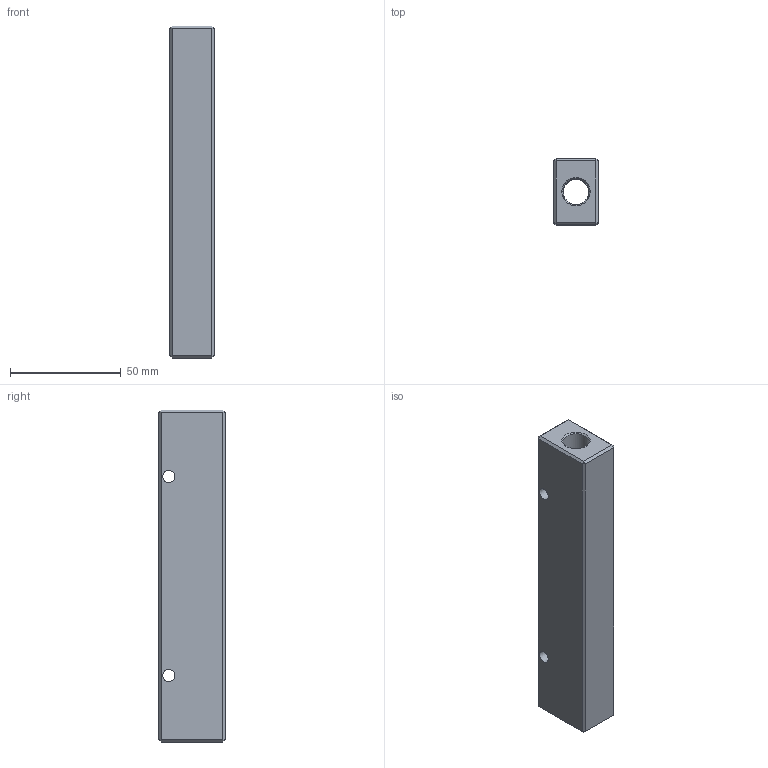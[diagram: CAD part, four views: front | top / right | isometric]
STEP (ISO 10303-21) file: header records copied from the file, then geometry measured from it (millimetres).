
FILE_DESCRIPTION(/* description */ (''),/* implementation_level */ '2;1');
FILE_NAME(/* name */ 'BXH89 2B2 10B1.stp',/* time_stamp */ '2024-11-15T00:47:09+01:00',/* author */ ('freju'),/* organization */ (''),/* preprocessor_version */ 'ST-DEVELOPER v20',/* originating_system */ 'Autodesk Inventor 2025',/* authorisation */ '');
FILE_SCHEMA (('AUTOMOTIVE_DESIGN { 1 0 10303 214 3 1 1 }'));
Length unit declared in the file: millimetre
Products named in the file (1): BXH89 2B2 10B1
Bounding box: 20 x 30 x 150 mm (x, y, z)
Volume: 69939.7 mm3; surface area: 22271.5 mm2
Topology: 1 solids, 1 shells, 45 faces, 112 edges, 67 vertices
Faces by surface type: plane 28, cylinder 10, cone 7
Full cylindrical faces by diameter (mm): 5.5 x2, 8.8 x5, 11.5 x1, 11.8 x2
Entity records: 1580 total; most frequent: CARTESIAN_POINT 435, DIRECTION 227, ORIENTED_EDGE 224, EDGE_CURVE 112, AXIS2_PLACEMENT_3D 79, LINE 69, VECTOR 69, VERTEX_POINT 67
